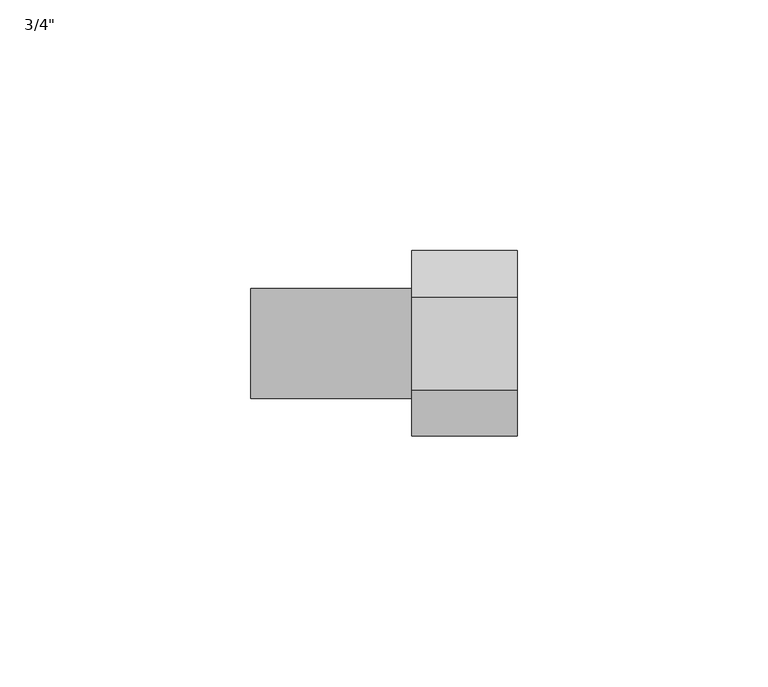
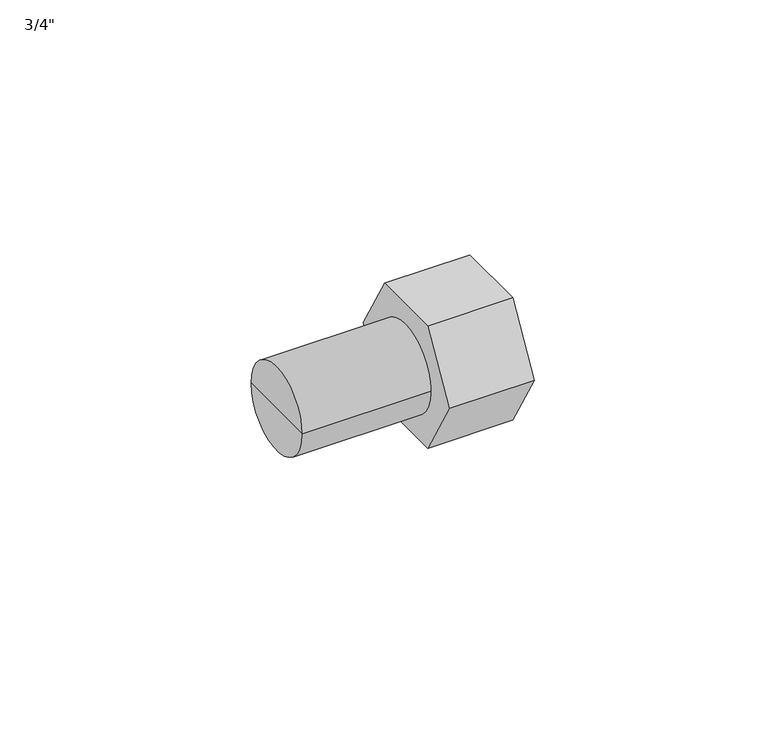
"""IFC4 building model written with IfcOpenShell, lengths in millimetres: pipe fitting geometry."""

from ifc_helpers import new_model, si_unit, frame, origin, place, context, project, spatial, polyline, circle_curve, outline, extrude, source, transform, mapped, element, save
from ifc_brep_helpers import plane_surface, cylinder_surface, advanced_brep


def pipe_fitting_64cd614b(model_context):
    return source(origin(), model_context, "Body", "SolidModel", [
        extrude(outline(polyline([(-18.4752086, 0.0), (-9.2376043, 16.0), (9.2376043, 16.0), (18.4752086, 0.0), (9.2376043, -16.0), (-9.2376043, -16.0), (-18.4752086, 0.0)])), frame((0.0, 0.0, 0.0), z_axis=(1.0, 0.0, 0.0), x_axis=(0.0, 1.0, 0.0)), (0.0, 0.0, 1.0), 21.0),
        advanced_brep(
        [(-32.0, -11.0, 0.0), (-32.0, 11.0, 0.0), (0.0, 11.0, 0.0), (0.0, -11.0, 0.0), (-32.0, 0.0, 0.0), (0.0, 0.0, 0.0)],
        [
            (0, 1, circle_curve(frame((-32.0, 0.0, 0.0), z_axis=(1.0, 0.0, 0.0), x_axis=(0.0, 1.0, 0.0)), 11.0)),
            (1, 2),
            (2, 3, circle_curve(frame((0.0, 0.0, 0.0), z_axis=(-1.0, 0.0, 0.0), x_axis=(0.0, 1.0, 0.0)), 11.0)),
            (3, 0),
            (1, 0, circle_curve(frame((-32.0, 0.0, 0.0), z_axis=(1.0, 0.0, 0.0), x_axis=(0.0, 1.0, 0.0)), 11.0)),
            (3, 2, circle_curve(frame((0.0, 0.0, 0.0), z_axis=(-1.0, 0.0, 0.0), x_axis=(0.0, 1.0, 0.0)), 11.0)),
            (4, 1),
            (0, 4),
            (2, 5),
            (5, 3),
        ],
        [
            cylinder_surface(frame((1349.742668, 0.0, 0.0), z_axis=(-1.0, 0.0, 0.0), x_axis=(0.0, 1.0, 0.0)), 11.0),
            plane_surface(frame((-32.0, 0.0, 0.0), z_axis=(-1.0, 0.0, 0.0), x_axis=(0.0, 1.0, 0.0))),
            plane_surface(frame((0.0, 0.0, 0.0), z_axis=(1.0, 0.0, 0.0), x_axis=(0.0, 1.0, 0.0))),
        ],
        [
            (0, [[1, 2, 3, 4]]),
            (0, [[5, -4, 6, -2]]),
            (1, [[7, -1, 8]]),
            (1, [[-8, -5, -7]]),
            (2, [[-3, 9, 10]]),
            (2, [[-6, -10, -9]]),
        ],
    ),
    ])


if __name__ == "__main__":
    model = new_model("IFC4")
    model_context = context("Model", 3, world=origin())
    ifc_project = project(units=[si_unit("LENGTHUNIT", "METRE", prefix="MILLI")], contexts=[model_context])
    site = spatial("IfcSite", under=ifc_project)
    building = spatial("IfcBuilding", under=site)
    placement = place(None, origin())
    pipe_fitting_shape = pipe_fitting_64cd614b(model_context)
    element("IfcPipeFitting", 1, ObjectType="KAN-therm Steel końcówka z GW do zaprasowania : 3/4\"", at=placement, inside=building, context=model_context, shape_type="MappedRepresentation", body=[
        mapped(pipe_fitting_shape, transform((0.0, 0.0, 0.0), x_axis=(1.0, 0.0, 0.0), y_axis=(0.0, 1.0, 0.0), z_axis=(0.0, 0.0, 1.0))),
    ])
    save(model, "model.ifc")
